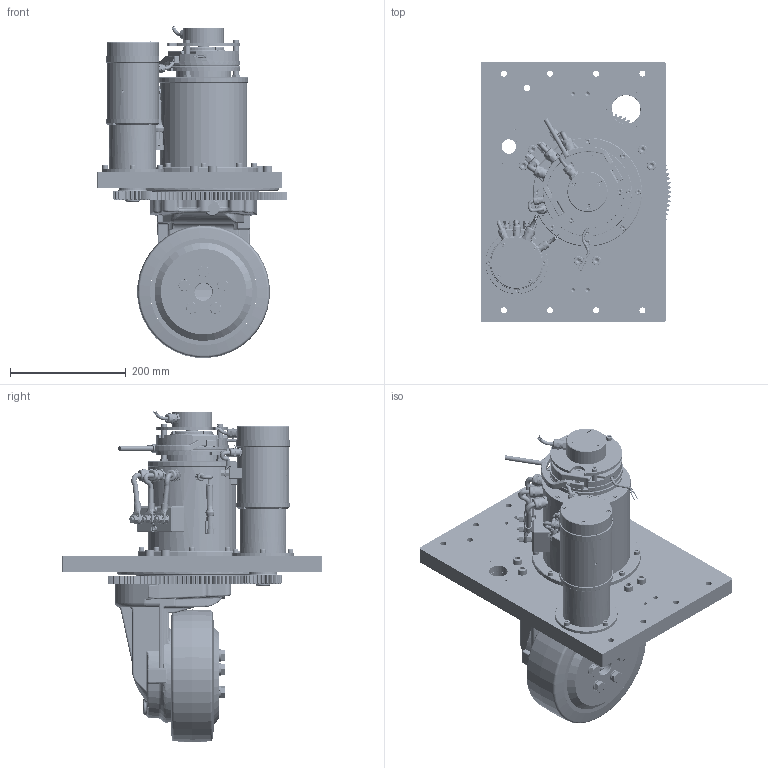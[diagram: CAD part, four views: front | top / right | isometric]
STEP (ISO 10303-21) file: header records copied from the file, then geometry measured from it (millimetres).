
FILE_DESCRIPTION(/* description */ (''),/* implementation_level */ '2;1');
FILE_NAME(/* name */ 'C:\Users\marco bosi\Desktop\WR151ECOFMS-BL.stp',/* time_stamp */ '2023-07-10T09:45:15+02:00',/* author */ ('marco bosi'),/* organization */ (''),/* preprocessor_version */ 'ST-DEVELOPER v18.1',/* originating_system */ 'Autodesk Inventor 2022',/* authorisation */ '');
FILE_SCHEMA (('AUTOMOTIVE_DESIGN { 1 0 10303 214 3 1 1 }'));
Products named in the file (1): WR151ECO.P003_Semplifica_1
Bounding box: 330 x 450 x 574.82 mm (x, y, z)
Volume: 9947627.1 mm3; surface area: 1772506.1 mm2
Topology: 56 solids, 56 shells, 10493 faces, 27984 edges, 17895 vertices
Faces by surface type: plane 7258, cylinder 1822, cone 573, bspline 545, torus 264, sphere 31
Full cylindrical faces by diameter (mm): 1.88 x2, 1.914 x2, 2 x4, 2.459 x7, 2.5 x1, 2.523 x2, 3.242 x10, 3.457 x2, 4 x11, 4.134 x21, 4.25 x2, 4.5 x8, 4.917 x20, 5 x5, 5.3 x1, 5.5 x16, 6 x18, 6.3 x2, 6.5 x9, 6.647 x8, 7 x25, 7.5 x16, 7.6 x1, 7.64 x3, 8 x35, 8.2 x3, 8.3 x2, 8.376 x12, 8.5 x15, 8.75 x3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
Entity records: 420676 total; most frequent: CARTESIAN_POINT 146792, ORIENTED_EDGE 55798, DIRECTION 54215, EDGE_CURVE 27899, AXIS2_PLACEMENT_3D 18719, VERTEX_POINT 17993, LINE 16777, VECTOR 16777
